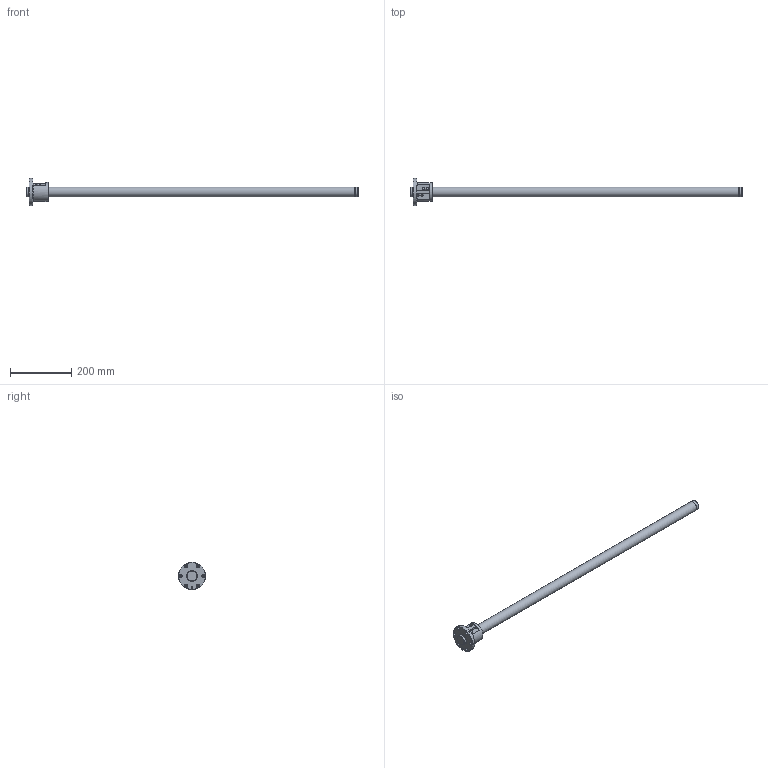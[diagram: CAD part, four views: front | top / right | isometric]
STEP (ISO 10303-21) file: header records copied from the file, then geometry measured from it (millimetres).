
FILE_DESCRIPTION( ( 'STEP AP203' ), ' ' );
FILE_NAME( 'p:/temp/worker_16/3916_4020/app_78_12018011812053656843996818fa3fd_000000_00_00_000000/format_0/BIF3206-5RRG0+1083LC0_10000.stp', '2018-01-18T11:05:37', ( '' ), ( '' ), ' ', 'PARTsolutions', ' ' );
FILE_SCHEMA( ( 'CONFIG_CONTROL_DESIGN' ) );
Length unit declared in the file: millimetre
Products named in the file (3): BIF3206-5RRG0+1083LC0_10000; _BIF 3206-5RR1000500 Shaft; _BIF 3206-5RR Nut
Assembly tree (2 placements, depth 2):
  BIF3206-5RRG0+1083LC0_10000
    _BIF 3206-5RR1000500 Shaft
    _BIF 3206-5RR Nut
Bounding box: 1083 x 89 x 89 mm (x, y, z)
Volume: 1031360.4 mm3; surface area: 144479.2 mm2
Topology: 2 solids, 2 shells, 82 faces, 178 edges, 113 vertices
Faces by surface type: cylinder 39, plane 31, cone 8, torus 4
Full cylindrical faces by diameter (mm): 4.25 x2, 4.917 x1, 5.8 x4, 6.6 x6, 11 x6, 31.5 x2, 32 x4, 34.8 x2, 62 x1, 89 x1
Entity records: 2498 total; most frequent: CARTESIAN_POINT 707, DIRECTION 376, ORIENTED_EDGE 262, AXIS2_PLACEMENT_3D 172, EDGE_LOOP 156, EDGE_CURVE 131, FACE_OUTER_BOUND 111, VERTEX_POINT 103
